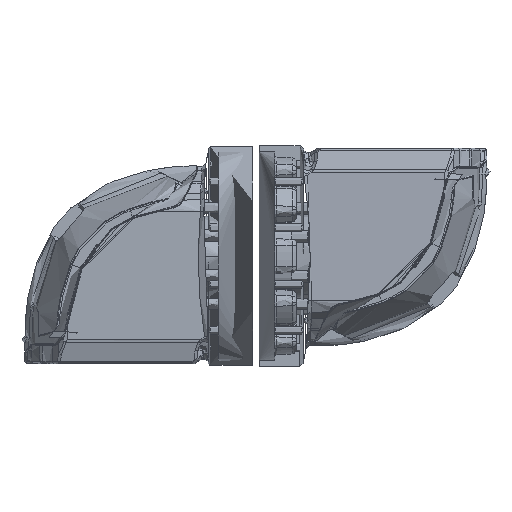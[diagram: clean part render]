
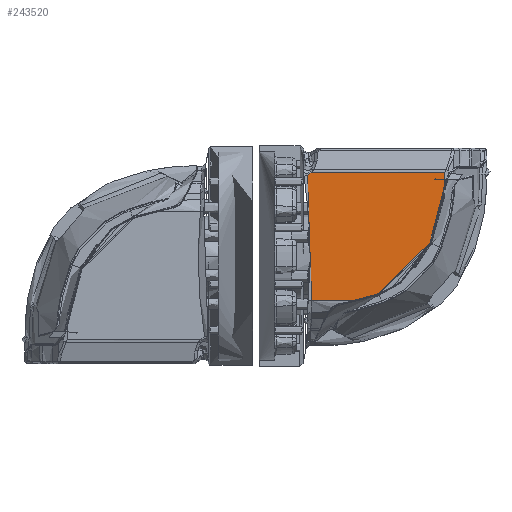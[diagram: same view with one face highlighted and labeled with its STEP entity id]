
A CAD part, left-side view. The second image highlights one B-rep face of the part: STEP entity #243520.
In plain terms, the highlighted planar face has unit normal (-1, -0.009, 0) as drawn and (-0.009, 0, 1) by its records, which use the part's own axes.
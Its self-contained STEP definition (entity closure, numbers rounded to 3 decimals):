
#2356 = CARTESIAN_POINT ( 'NONE',  ( 148.4, -97.094, 7.424 ) ) ;
#13174 = DIRECTION ( 'NONE',  ( -1., 0., -0.009 ) ) ;
#15462 = CARTESIAN_POINT ( 'NONE',  ( 178.028, -152.356, 7.683 ) ) ;
#17136 = CARTESIAN_POINT ( 'NONE',  ( 179.234, -151.762, 7.693 ) ) ;
#31410 = CARTESIAN_POINT ( 'NONE',  ( 146.758, -97.725, 7.41 ) ) ;
#33865 = ORIENTED_EDGE ( 'NONE', *, *, #167254, .F. ) ;
#35240 = B_SPLINE_CURVE_WITH_KNOTS ( 'NONE', 3,
 ( #147055, #296775, #219790, #75478 ),
 .UNSPECIFIED., .F., .F.,
 ( 4, 4 ),
 ( 0., 1. ),
 .UNSPECIFIED. ) ;
#43398 = VERTEX_POINT ( 'NONE', #283051 ) ;
#54661 = B_SPLINE_CURVE_WITH_KNOTS ( 'NONE', 3,
 ( #218026, #268926, #120321, #270004 ),
 .UNSPECIFIED., .F., .F.,
 ( 4, 4 ),
 ( 0., 1. ),
 .UNSPECIFIED. ) ;
#56995 = B_SPLINE_CURVE_WITH_KNOTS ( 'NONE', 3,
 ( #17136, #70178, #220954, #267595 ),
 .UNSPECIFIED., .F., .F.,
 ( 4, 4 ),
 ( 0., 1. ),
 .UNSPECIFIED. ) ;
#58215 = EDGE_CURVE ( 'NONE', #267009, #134835, #222634, .T. ) ;
#61923 = B_SPLINE_CURVE_WITH_KNOTS ( 'NONE', 3,
 ( #2356, #122738, #75053, #198666, #123797, #199743 ),
 .UNSPECIFIED., .F., .F.,
 ( 4, 2, 4 ),
 ( 0., 0.5, 1. ),
 .UNSPECIFIED. ) ;
#70178 = CARTESIAN_POINT ( 'NONE',  ( 176.222, -132.75, 7.667 ) ) ;
#72534 = CARTESIAN_POINT ( 'NONE',  ( 147.85, -97.298, 7.419 ) ) ;
#72938 = CARTESIAN_POINT ( 'NONE',  ( 123.346, -120.679, 7.206 ) ) ;
#75053 = CARTESIAN_POINT ( 'NONE',  ( 151.569, -95.985, 7.452 ) ) ;
#75478 = CARTESIAN_POINT ( 'NONE',  ( 117.123, -144.779, 7.151 ) ) ;
#77221 = CARTESIAN_POINT ( 'NONE',  ( 177.315, -94.267, 7.677 ) ) ;
#78815 = EDGE_CURVE ( 'NONE', #260093, #129289, #35240, .T. ) ;
#81185 = EDGE_CURVE ( 'NONE', #43398, #216322, #314730, .T. ) ;
#85634 = CARTESIAN_POINT ( 'NONE',  ( 116.681, -152.772, 7.147 ) ) ;
#92655 = VERTEX_POINT ( 'NONE', #147785 ) ;
#97141 = B_SPLINE_CURVE_WITH_KNOTS ( 'NONE', 3,
 ( #313769, #15462, #312695, #140142 ),
 .UNSPECIFIED., .F., .F.,
 ( 4, 4 ),
 ( 0., 1. ),
 .UNSPECIFIED. ) ;
#97187 = CARTESIAN_POINT ( 'NONE',  ( 177.502, -152.772, 7.678 ) ) ;
#107630 = VERTEX_POINT ( 'NONE', #97187 ) ;
#111817 = PLANE ( 'NONE',  #280654 ) ;
#118692 = VERTEX_POINT ( 'NONE', #85634 ) ;
#119385 = ORIENTED_EDGE ( 'NONE', *, *, #78815, .F. ) ;
#120111 = CARTESIAN_POINT ( 'NONE',  ( 125.501, -115.495, 7.224 ) ) ;
#120321 = CARTESIAN_POINT ( 'NONE',  ( 120.145, -128.378, 7.178 ) ) ;
#121599 = ORIENTED_EDGE ( 'NONE', *, *, #233150, .F. ) ;
#122369 = CARTESIAN_POINT ( 'NONE',  ( 116.681, -152.772, 7.147 ) ) ;
#122738 = CARTESIAN_POINT ( 'NONE',  ( 149.97, -96.508, 7.438 ) ) ;
#123319 = CARTESIAN_POINT ( 'NONE',  ( 123.346, -120.679, 7.206 ) ) ;
#123439 = EDGE_LOOP ( 'NONE', ( #246931, #121599, #278671, #167578, #33865, #119385, #256330, #193937, #159488, #199264 ) ) ;
#123797 = CARTESIAN_POINT ( 'NONE',  ( 156.43, -94.631, 7.494 ) ) ;
#129289 = VERTEX_POINT ( 'NONE', #151281 ) ;
#130632 = CARTESIAN_POINT ( 'NONE',  ( 177.502, -152.772, 7.678 ) ) ;
#134835 = VERTEX_POINT ( 'NONE', #31410 ) ;
#140142 = CARTESIAN_POINT ( 'NONE',  ( 179.234, -151.762, 7.693 ) ) ;
#146264 = DIRECTION ( 'NONE',  ( 0., 1., 0. ) ) ;
#147055 = CARTESIAN_POINT ( 'NONE',  ( 116.681, -147.272, 7.147 ) ) ;
#147785 = CARTESIAN_POINT ( 'NONE',  ( 179.234, -151.762, 7.693 ) ) ;
#148288 = CARTESIAN_POINT ( 'NONE',  ( 136.698, -102.911, 7.322 ) ) ;
#151281 = CARTESIAN_POINT ( 'NONE',  ( 117.123, -144.779, 7.151 ) ) ;
#152779 = EDGE_CURVE ( 'NONE', #107630, #118692, #272108, .T. ) ;
#156689 = DIRECTION ( 'NONE',  ( -1., 0., -0.009 ) ) ;
#159488 = ORIENTED_EDGE ( 'NONE', *, *, #176298, .T. ) ;
#167162 = VECTOR ( 'NONE', #156689, 1000. ) ;
#167254 = EDGE_CURVE ( 'NONE', #129289, #267009, #54661, .T. ) ;
#167578 = ORIENTED_EDGE ( 'NONE', *, *, #58215, .F. ) ;
#167781 = VERTEX_POINT ( 'NONE', #317392 ) ;
#169986 = CARTESIAN_POINT ( 'NONE',  ( 146.696, -97.75, 7.409 ) ) ;
#173209 = CARTESIAN_POINT ( 'NONE',  ( 146.758, -97.725, 7.41 ) ) ;
#174323 = LINE ( 'NONE', #122369, #185797 ) ;
#176298 = EDGE_CURVE ( 'NONE', #107630, #92655, #97141, .T. ) ;
#185797 = VECTOR ( 'NONE', #146264, 1000. ) ;
#193937 = ORIENTED_EDGE ( 'NONE', *, *, #152779, .F. ) ;
#198666 = CARTESIAN_POINT ( 'NONE',  ( 154.799, -95.046, 7.48 ) ) ;
#199264 = ORIENTED_EDGE ( 'NONE', *, *, #299835, .T. ) ;
#199743 = CARTESIAN_POINT ( 'NONE',  ( 158.07, -94.267, 7.509 ) ) ;
#207399 = DIRECTION ( 'NONE',  ( -0.009, 0., 1. ) ) ;
#214861 = FACE_OUTER_BOUND ( 'NONE', #123439, .T. ) ;
#216322 = VERTEX_POINT ( 'NONE', #235382 ) ;
#218026 = CARTESIAN_POINT ( 'NONE',  ( 117.123, -144.779, 7.151 ) ) ;
#219790 = CARTESIAN_POINT ( 'NONE',  ( 117.029, -145.617, 7.15 ) ) ;
#220954 = CARTESIAN_POINT ( 'NONE',  ( 175.577, -113.437, 7.661 ) ) ;
#222634 = B_SPLINE_CURVE_WITH_KNOTS ( 'NONE', 3,
 ( #123319, #120111, #296941, #148288, #223189, #169986, #321895, #173209 ),
 .UNSPECIFIED., .F., .F.,
 ( 4, 2, 2, 4 ),
 ( 0., 0.499, 0.998, 1. ),
 .UNSPECIFIED. ) ;
#223189 = CARTESIAN_POINT ( 'NONE',  ( 141.456, -99.821, 7.364 ) ) ;
#233150 = EDGE_CURVE ( 'NONE', #167781, #216322, #61923, .T. ) ;
#235382 = CARTESIAN_POINT ( 'NONE',  ( 158.07, -94.267, 7.509 ) ) ;
#243520 = ADVANCED_FACE ( 'NONE', ( #214861 ), #111817, .T. ) ;
#246041 = CARTESIAN_POINT ( 'NONE',  ( 148.4, -97.094, 7.424 ) ) ;
#246931 = ORIENTED_EDGE ( 'NONE', *, *, #81185, .T. ) ;
#256330 = ORIENTED_EDGE ( 'NONE', *, *, #270227, .F. ) ;
#257290 = DIRECTION ( 'NONE',  ( 0., -1., 0. ) ) ;
#260093 = VERTEX_POINT ( 'NONE', #303797 ) ;
#267009 = VERTEX_POINT ( 'NONE', #72938 ) ;
#267595 = CARTESIAN_POINT ( 'NONE',  ( 177.315, -94.267, 7.677 ) ) ;
#268926 = CARTESIAN_POINT ( 'NONE',  ( 118.05, -136.492, 7.159 ) ) ;
#270004 = CARTESIAN_POINT ( 'NONE',  ( 123.346, -120.679, 7.206 ) ) ;
#270203 = EDGE_CURVE ( 'NONE', #134835, #167781, #320819, .T. ) ;
#270227 = EDGE_CURVE ( 'NONE', #118692, #260093, #174323, .T. ) ;
#272108 = LINE ( 'NONE', #130632, #167162 ) ;
#278671 = ORIENTED_EDGE ( 'NONE', *, *, #270203, .F. ) ;
#280654 = AXIS2_PLACEMENT_3D ( 'NONE', #310395, #207399, #257290 ) ;
#283051 = CARTESIAN_POINT ( 'NONE',  ( 177.315, -94.267, 7.677 ) ) ;
#283620 = VECTOR ( 'NONE', #13174, 1000. ) ;
#293836 = CARTESIAN_POINT ( 'NONE',  ( 146.758, -97.725, 7.41 ) ) ;
#296775 = CARTESIAN_POINT ( 'NONE',  ( 116.884, -146.453, 7.149 ) ) ;
#296941 = CARTESIAN_POINT ( 'NONE',  ( 128.677, -110.791, 7.252 ) ) ;
#299835 = EDGE_CURVE ( 'NONE', #92655, #43398, #56995, .T. ) ;
#303797 = CARTESIAN_POINT ( 'NONE',  ( 116.681, -147.272, 7.147 ) ) ;
#310395 = CARTESIAN_POINT ( 'NONE',  ( 181.935, -120.373, 7.717 ) ) ;
#312695 = CARTESIAN_POINT ( 'NONE',  ( 178.613, -152.015, 7.688 ) ) ;
#313769 = CARTESIAN_POINT ( 'NONE',  ( 177.502, -152.772, 7.678 ) ) ;
#314730 = LINE ( 'NONE', #77221, #283620 ) ;
#317392 = CARTESIAN_POINT ( 'NONE',  ( 148.4, -97.094, 7.424 ) ) ;
#319864 = CARTESIAN_POINT ( 'NONE',  ( 147.303, -97.509, 7.415 ) ) ;
#320819 = B_SPLINE_CURVE_WITH_KNOTS ( 'NONE', 3,
 ( #293836, #319864, #72534, #246041 ),
 .UNSPECIFIED., .F., .F.,
 ( 4, 4 ),
 ( 0., 1. ),
 .UNSPECIFIED. ) ;
#321895 = CARTESIAN_POINT ( 'NONE',  ( 146.737, -97.734, 7.41 ) ) ;
